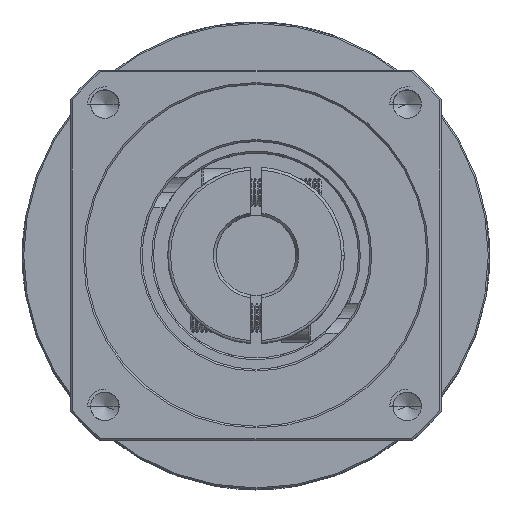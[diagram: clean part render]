
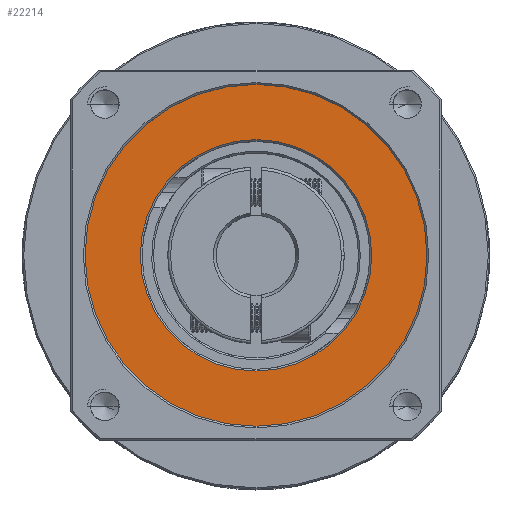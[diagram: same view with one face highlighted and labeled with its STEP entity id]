
A CAD part, top view. The second image highlights one B-rep face of the part: STEP entity #22214.
In plain terms, the highlighted planar face has unit normal (0, 0, 1).
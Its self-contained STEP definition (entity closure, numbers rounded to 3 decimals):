
#4988 = CIRCLE ( 'NONE', #107521, 30. ) ;
#5217 = VERTEX_POINT ( 'NONE', #12029 ) ;
#9496 = AXIS2_PLACEMENT_3D ( 'NONE', #23842, #94518, #34069 ) ;
#12029 = CARTESIAN_POINT ( 'NONE',  ( -51.784, 16.078, 34.529 ) ) ;
#13447 = CARTESIAN_POINT ( 'NONE',  ( -72.084, 16.078, 34.529 ) ) ;
#18291 = CARTESIAN_POINT ( 'NONE',  ( -72.084, 16.078, 34.529 ) ) ;
#21332 = CARTESIAN_POINT ( 'NONE',  ( -102.084, 16.078, 34.529 ) ) ;
#22214 = ADVANCED_FACE ( 'NONE', ( #77768, #27182 ), #96229, .T. ) ;
#22791 = ORIENTED_EDGE ( 'NONE', *, *, #42955, .T. ) ;
#23186 = EDGE_LOOP ( 'NONE', ( #109731, #22791 ) ) ;
#23672 = DIRECTION ( 'NONE',  ( 1., 0., 0. ) ) ;
#23842 = CARTESIAN_POINT ( 'NONE',  ( -72.084, 16.078, 34.529 ) ) ;
#27182 = FACE_OUTER_BOUND ( 'NONE', #23186, .T. ) ;
#28529 = DIRECTION ( 'NONE',  ( 1., 0., 0. ) ) ;
#31621 = EDGE_LOOP ( 'NONE', ( #35687, #95573 ) ) ;
#34069 = DIRECTION ( 'NONE',  ( 1., 0., 0. ) ) ;
#35687 = ORIENTED_EDGE ( 'NONE', *, *, #95991, .T. ) ;
#36229 = DIRECTION ( 'NONE',  ( 0., 0., 1. ) ) ;
#36333 = AXIS2_PLACEMENT_3D ( 'NONE', #18291, #89055, #28529 ) ;
#42635 = CIRCLE ( 'NONE', #9496, 30. ) ;
#42955 = EDGE_CURVE ( 'NONE', #64065, #51589, #4988, .T. ) ;
#44990 = EDGE_CURVE ( 'NONE', #128594, #5217, #128871, .T. ) ;
#51589 = VERTEX_POINT ( 'NONE', #59954 ) ;
#54296 = CARTESIAN_POINT ( 'NONE',  ( -72.084, 16.078, 34.529 ) ) ;
#59954 = CARTESIAN_POINT ( 'NONE',  ( -42.084, 16.078, 34.529 ) ) ;
#64065 = VERTEX_POINT ( 'NONE', #21332 ) ;
#64395 = DIRECTION ( 'NONE',  ( 1., 0., 0. ) ) ;
#74787 = AXIS2_PLACEMENT_3D ( 'NONE', #13447, #84186, #23672 ) ;
#77768 = FACE_BOUND ( 'NONE', #31621, .T. ) ;
#84186 = DIRECTION ( 'NONE',  ( 0., 0., -1. ) ) ;
#85547 = CIRCLE ( 'NONE', #36333, 20.3 ) ;
#89055 = DIRECTION ( 'NONE',  ( 0., 0., -1. ) ) ;
#94518 = DIRECTION ( 'NONE',  ( 0., 0., 1. ) ) ;
#95573 = ORIENTED_EDGE ( 'NONE', *, *, #44990, .T. ) ;
#95991 = EDGE_CURVE ( 'NONE', #5217, #128594, #85547, .T. ) ;
#96229 = PLANE ( 'NONE',  #99139 ) ;
#96566 = EDGE_CURVE ( 'NONE', #51589, #64065, #42635, .T. ) ;
#96676 = CARTESIAN_POINT ( 'NONE',  ( -72.084, 16.078, 34.529 ) ) ;
#99139 = AXIS2_PLACEMENT_3D ( 'NONE', #96676, #36229, #106865 ) ;
#106865 = DIRECTION ( 'NONE',  ( 1., 0., 0. ) ) ;
#107521 = AXIS2_PLACEMENT_3D ( 'NONE', #54296, #124831, #64395 ) ;
#109731 = ORIENTED_EDGE ( 'NONE', *, *, #96566, .T. ) ;
#124831 = DIRECTION ( 'NONE',  ( 0., 0., 1. ) ) ;
#128594 = VERTEX_POINT ( 'NONE', #129335 ) ;
#128871 = CIRCLE ( 'NONE', #74787, 20.3 ) ;
#129335 = CARTESIAN_POINT ( 'NONE',  ( -92.384, 16.078, 34.529 ) ) ;
